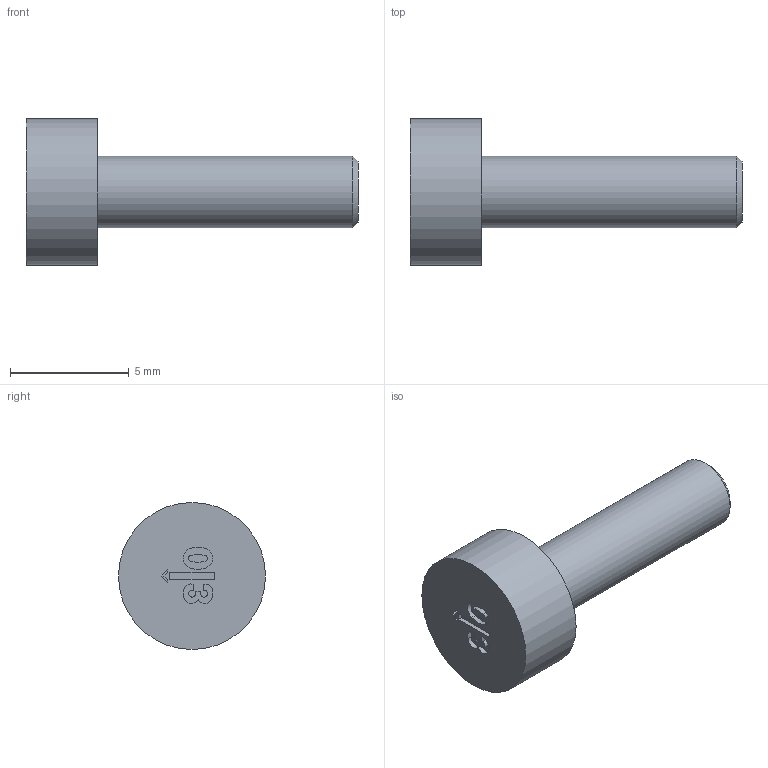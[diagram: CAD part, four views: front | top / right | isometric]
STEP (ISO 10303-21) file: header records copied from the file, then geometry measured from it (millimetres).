
FILE_DESCRIPTION( ( 'STEP AP203' ), ' ' );
FILE_NAME( 'p:/temp/worker_145/3444_4456/app_51_12017012609035731723024260eae72_000000_00_00_000000/format_0/YOS 12.stp', '2017-01-26T08:03:57', ( '' ), ( '' ), ' ', 'PARTsolutions', ' ' );
FILE_SCHEMA( ( 'CONFIG_CONTROL_DESIGN' ) );
Length unit declared in the file: millimetre
Products named in the file (1): _YOS 121
Bounding box: 14 x 6.2 x 6.2 mm (x, y, z)
Volume: 167.7 mm3; surface area: 224.8 mm2
Topology: 1 solids, 1 shells, 46 faces, 113 edges, 75 vertices
Faces by surface type: plane 29, cylinder 16, cone 1
Full cylindrical faces by diameter (mm): 3 x1, 6.2 x1
Entity records: 1391 total; most frequent: DIRECTION 237, CARTESIAN_POINT 232, ORIENTED_EDGE 220, EDGE_CURVE 110, AXIS2_PLACEMENT_3D 80, LINE 77, VECTOR 77, VERTEX_POINT 75
